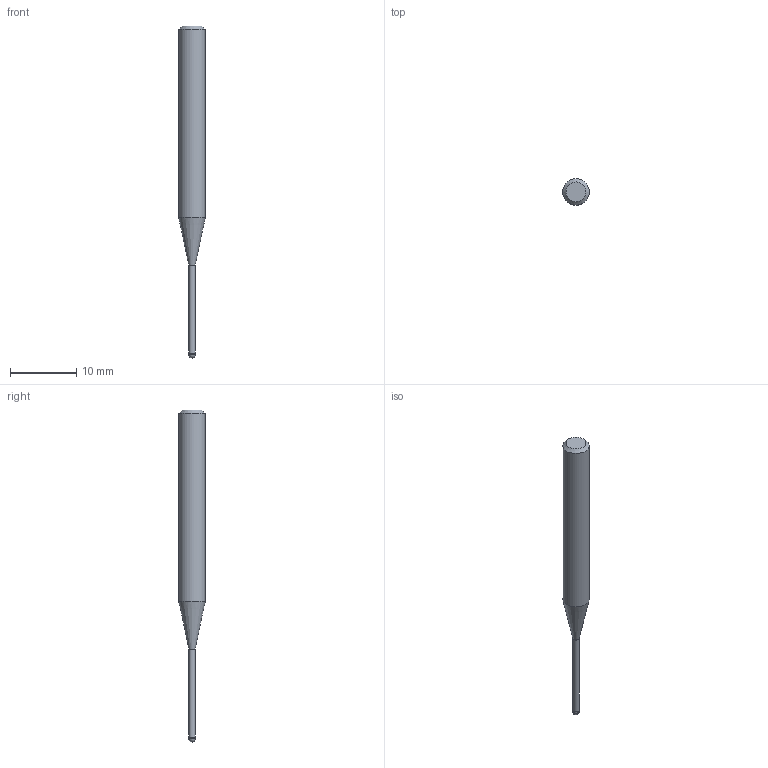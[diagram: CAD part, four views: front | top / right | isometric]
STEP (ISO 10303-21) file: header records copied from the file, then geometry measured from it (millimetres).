
FILE_DESCRIPTION((''),'2;1');
FILE_NAME('C:\Users\nsx150\AppData\Local\Temp\Mastercam 2021\3SYKECWX22\TEMP.step','2021-04-22T10:02:29',(''),(''),'STEP Write','Mastercam 2021 ... CNC Software, Inc.','');
FILE_SCHEMA(('AUTOMOTIVE_DESIGN'));
Length unit declared in the file: millimetre
Products named in the file (1): None
Bounding box: 4 x 4 x 50 mm (x, y, z)
Volume: 409.5 mm3; surface area: 471.2 mm2
Topology: 2 solids, 2 shells, 9 faces, 14 edges, 8 vertices
Faces by surface type: plane 3, cylinder 3, cone 2, sphere 1
Full cylindrical faces by diameter (mm): 0.95 x1, 1 x1, 4 x1
Entity records: 211 total; most frequent: DIRECTION 36, CARTESIAN_POINT 25, AXIS2_PLACEMENT_3D 18, ORIENTED_EDGE 14, EDGE_LOOP 14, STYLED_ITEM 12, ADVANCED_FACE 9, FACE_BOUND 8
